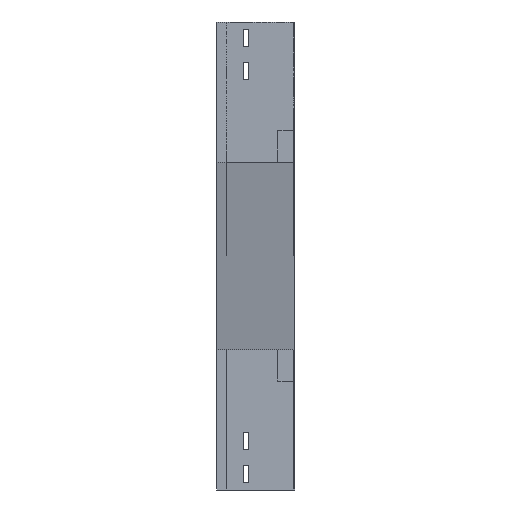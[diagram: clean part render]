
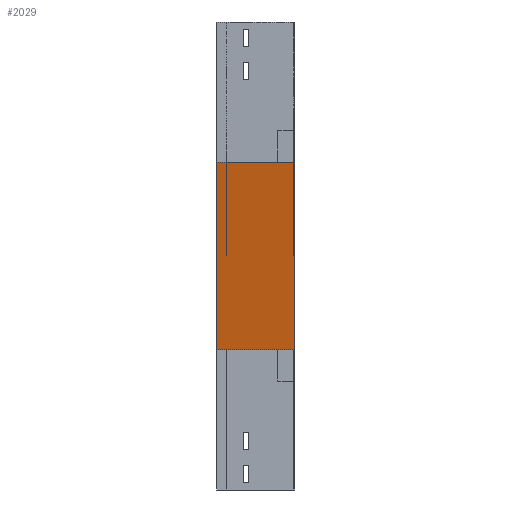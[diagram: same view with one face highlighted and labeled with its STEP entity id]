
A CAD part, left-side view. The second image highlights one B-rep face of the part: STEP entity #2029.
In plain terms, the highlighted planar face has unit normal (-0.979, 0, -0.204).
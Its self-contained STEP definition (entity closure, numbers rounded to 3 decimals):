
#46 = LINE ( 'NONE', #370, #1001 ) ;
#240 = DIRECTION ( 'NONE',  ( 0.204, 0., -0.979 ) ) ;
#258 = CARTESIAN_POINT ( 'NONE',  ( 0., 100., -180. ) ) ;
#268 = EDGE_CURVE ( 'NONE', #934, #2337, #585, .T. ) ;
#272 = VERTEX_POINT ( 'NONE', #258 ) ;
#343 = VECTOR ( 'NONE', #739, 1000. ) ;
#370 = CARTESIAN_POINT ( 'NONE',  ( 0., 100., -180. ) ) ;
#459 = CARTESIAN_POINT ( 'NONE',  ( 50., 0., -420. ) ) ;
#585 = LINE ( 'NONE', #2998, #3865 ) ;
#682 = CARTESIAN_POINT ( 'NONE',  ( 50., 100., -420. ) ) ;
#739 = DIRECTION ( 'NONE',  ( 0., -1., 0. ) ) ;
#898 = FACE_OUTER_BOUND ( 'NONE', #2230, .T. ) ;
#934 = VERTEX_POINT ( 'NONE', #3600 ) ;
#1001 = VECTOR ( 'NONE', #2958, 1000. ) ;
#1288 = CARTESIAN_POINT ( 'NONE',  ( 0., 0., -180. ) ) ;
#1293 = ORIENTED_EDGE ( 'NONE', *, *, #2525, .F. ) ;
#1503 = ORIENTED_EDGE ( 'NONE', *, *, #268, .F. ) ;
#1682 = DIRECTION ( 'NONE',  ( 0., 1., 0. ) ) ;
#2009 = VECTOR ( 'NONE', #1682, 1000. ) ;
#2029 = ADVANCED_FACE ( 'NONE', ( #898 ), #2116, .F. ) ;
#2039 = ORIENTED_EDGE ( 'NONE', *, *, #2827, .F. ) ;
#2116 = PLANE ( 'NONE',  #3293 ) ;
#2230 = EDGE_LOOP ( 'NONE', ( #1503, #2039, #2640, #1293 ) ) ;
#2337 = VERTEX_POINT ( 'NONE', #2428 ) ;
#2428 = CARTESIAN_POINT ( 'NONE',  ( 50., 0., -420. ) ) ;
#2437 = DIRECTION ( 'NONE',  ( 0.204, 0., -0.979 ) ) ;
#2525 = EDGE_CURVE ( 'NONE', #2337, #2811, #3215, .T. ) ;
#2640 = ORIENTED_EDGE ( 'NONE', *, *, #3299, .T. ) ;
#2744 = DIRECTION ( 'NONE',  ( 0.979, 0., 0.204 ) ) ;
#2811 = VERTEX_POINT ( 'NONE', #682 ) ;
#2827 = EDGE_CURVE ( 'NONE', #272, #934, #2907, .T. ) ;
#2907 = LINE ( 'NONE', #1288, #343 ) ;
#2958 = DIRECTION ( 'NONE',  ( 0.204, 0., -0.979 ) ) ;
#2998 = CARTESIAN_POINT ( 'NONE',  ( 0., 0., -180. ) ) ;
#3215 = LINE ( 'NONE', #459, #2009 ) ;
#3293 = AXIS2_PLACEMENT_3D ( 'NONE', #3348, #2744, #2437 ) ;
#3299 = EDGE_CURVE ( 'NONE', #272, #2811, #46, .T. ) ;
#3348 = CARTESIAN_POINT ( 'NONE',  ( 0., 0., -180. ) ) ;
#3600 = CARTESIAN_POINT ( 'NONE',  ( 0., 0., -180. ) ) ;
#3865 = VECTOR ( 'NONE', #240, 1000. ) ;
